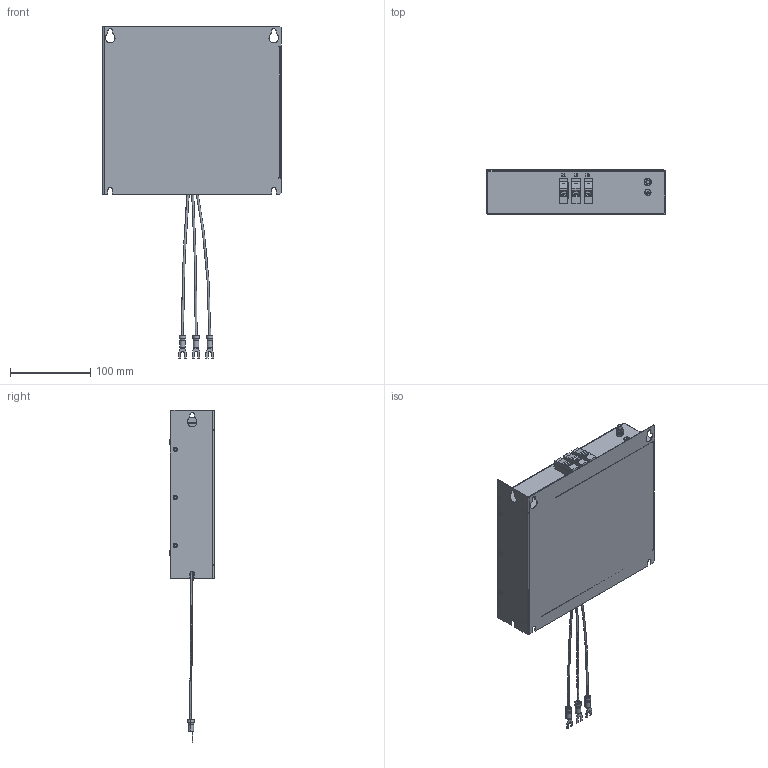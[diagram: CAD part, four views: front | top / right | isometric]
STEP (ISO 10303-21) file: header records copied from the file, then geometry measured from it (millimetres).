
FILE_DESCRIPTION (( 'STEP AP214' ), '1' );
FILE_NAME ('EFR-EFF-3F-32A.STEP', '2026-03-24T12:21:07', ( '' ), ( '' ), 'SwSTEP 2.0', 'SolidWorks 2025', '' );
FILE_SCHEMA (( 'AUTOMOTIVE_DESIGN' ));
Length unit declared in the file: millimetre
Products named in the file (15): 1000-506 L; ANSI B18.2.4.5M - M5 x 0.8; 1; BS 4464 - 5.35; ISO 7045 - M5 x 16 - 4.8 - Z; EFR-EFF-3F-32A; 1_1; 3F(2); Bushing 11; 3F.Harness1_1; IFI 505 - 42, FHSBMBR; 1000-506 B; ISO 7092 - ST 5 - 140 HV; #8 Terminal Spade 12 - 10 AWG; 3F.Harness1
Assembly tree (28 placements, depth 4):
  EFR-EFF-3F-32A
    3F(2)
      3F.Harness1
        3F.Harness1_1
      1000-506 B
      1  x4
      1_1  x3
      ISO 7045 - M5 x 16 - 4.8 - Z
      ANSI B18.2.4.5M - M5 x 0.8  x2
      ISO 7092 - ST 5 - 140 HV  x2
      BS 4464 - 5.35
      Bushing 11
      #8 Terminal Spade 12 - 10 AWG  x3
      1000-506 L
      IFI 505 - 42, FHSBMBR  x6
Bounding box: 223.42 x 55.46 x 414 mm (x, y, z)
Volume: 146473.1 mm3; surface area: 283783.9 mm2
Topology: 27 solids, 58 shells, 2641 faces, 6914 edges, 4480 vertices
Faces by surface type: plane 1865, cylinder 535, cone 130, bspline 73, torus 36, sphere 2
Full cylindrical faces by diameter (mm): 4.8 x4, 7.499 x3
Entity records: 33317 total; most frequent: CARTESIAN_POINT 7124, ORIENTED_EDGE 5408, DIRECTION 5243, EDGE_CURVE 2710, VECTOR 1817, LINE 1817, VERTEX_POINT 1752, AXIS2_PLACEMENT_3D 1713
